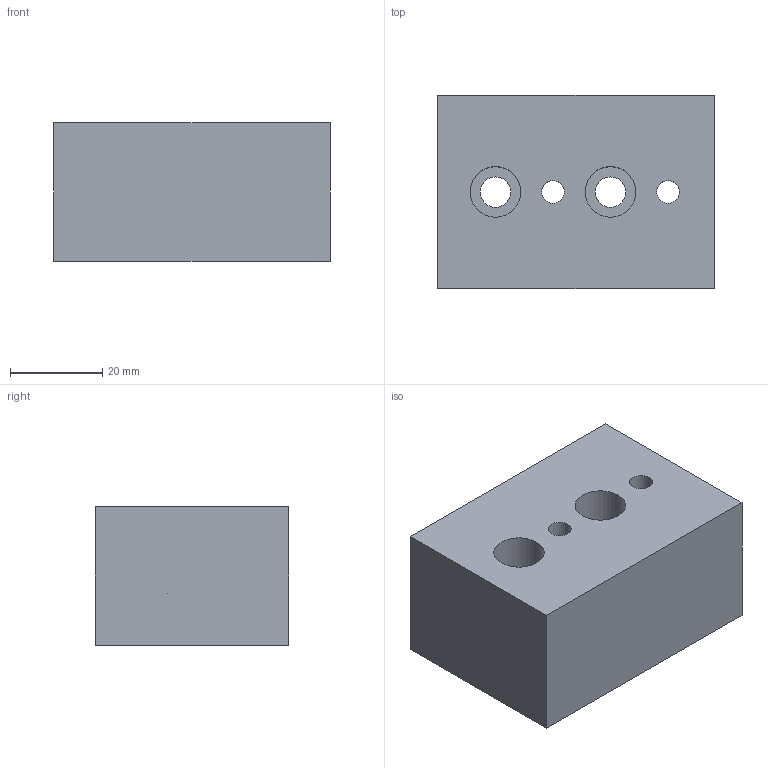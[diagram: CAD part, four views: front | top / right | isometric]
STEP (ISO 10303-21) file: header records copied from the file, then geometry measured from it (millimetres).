
FILE_DESCRIPTION(/* description */ ('Unknown'),/* implementation_level */ '2;1');
FILE_NAME(/* name */ '5_Block for rails',/* time_stamp */ '2020-07-03T18:47:39+02:00',/* author */ ('Unknown'),/* organization */ ('Unknown'),/* preprocessor_version */ 'ST-DEVELOPER v16.7',/* originating_system */ 'Solid Edge',/* authorisation */ 'Unknown');
FILE_SCHEMA (('AUTOMOTIVE_DESIGN {1 0 10303 214 3 1 1}'));
Length unit declared in the file: millimetre
Products named in the file (1): 5_Block for rails
Bounding box: 60 x 42 x 30 mm (x, y, z)
Volume: 69328.1 mm3; surface area: 13822.3 mm2
Topology: 1 solids, 1 shells, 14 faces, 34 edges, 24 vertices
Faces by surface type: plane 8, cylinder 6
Full cylindrical faces by diameter (mm): 5 x2, 6.6 x2, 11 x2
Entity records: 402 total; most frequent: DIRECTION 66, CARTESIAN_POINT 59, ORIENTED_EDGE 48, EDGE_LOOP 30, FACE_BOUND 30, AXIS2_PLACEMENT_3D 27, EDGE_CURVE 24, VERTEX_POINT 20
